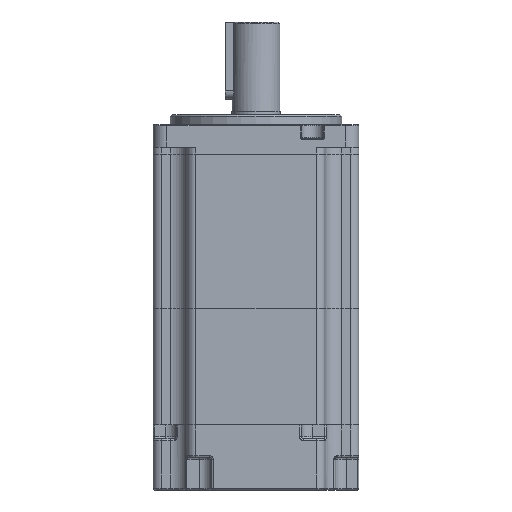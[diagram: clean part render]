
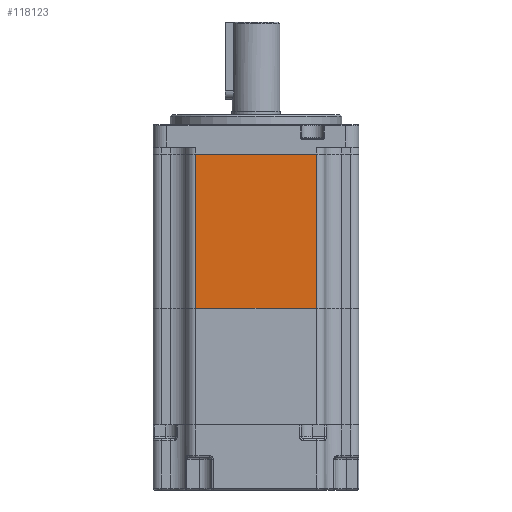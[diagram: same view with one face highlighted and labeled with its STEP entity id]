
A CAD part, front view. The second image highlights one B-rep face of the part: STEP entity #118123.
In plain terms, the highlighted planar face has unit normal (0, -1, 0).
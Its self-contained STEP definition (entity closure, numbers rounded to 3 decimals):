
#2219 = VERTEX_POINT ( 'NONE', #9013 ) ;
#3834 = LINE ( 'NONE', #116562, #117769 ) ;
#9013 = CARTESIAN_POINT ( 'NONE',  ( 17.55, -30., 45. ) ) ;
#9226 = CARTESIAN_POINT ( 'NONE',  ( 17.55, -30., 0. ) ) ;
#9628 = ORIENTED_EDGE ( 'NONE', *, *, #37212, .F. ) ;
#28409 = VECTOR ( 'NONE', #48271, 1000. ) ;
#28499 = EDGE_LOOP ( 'NONE', ( #112798, #72405, #9628, #118435 ) ) ;
#31718 = LINE ( 'NONE', #91940, #74095 ) ;
#37212 = EDGE_CURVE ( 'NONE', #107902, #2219, #46362, .T. ) ;
#39237 = CARTESIAN_POINT ( 'NONE',  ( -17.55, -30., 45. ) ) ;
#40941 = DIRECTION ( 'NONE',  ( 0., 0., 1. ) ) ;
#46362 = LINE ( 'NONE', #89186, #28409 ) ;
#48271 = DIRECTION ( 'NONE',  ( 1., 0., 0. ) ) ;
#49659 = CARTESIAN_POINT ( 'NONE',  ( 17.55, -30., 45. ) ) ;
#50546 = VERTEX_POINT ( 'NONE', #75837 ) ;
#62771 = VECTOR ( 'NONE', #86228, 1000. ) ;
#72405 = ORIENTED_EDGE ( 'NONE', *, *, #72932, .F. ) ;
#72932 = EDGE_CURVE ( 'NONE', #2219, #75026, #3834, .T. ) ;
#74095 = VECTOR ( 'NONE', #123743, 1000. ) ;
#75026 = VERTEX_POINT ( 'NONE', #9226 ) ;
#75291 = DIRECTION ( 'NONE',  ( 0., 0., -1. ) ) ;
#75837 = CARTESIAN_POINT ( 'NONE',  ( -17.55, -30., 0. ) ) ;
#76978 = AXIS2_PLACEMENT_3D ( 'NONE', #49659, #123238, #40941 ) ;
#86228 = DIRECTION ( 'NONE',  ( 0., 0., -1. ) ) ;
#87687 = EDGE_CURVE ( 'NONE', #50546, #75026, #31718, .T. ) ;
#89186 = CARTESIAN_POINT ( 'NONE',  ( 17.55, -30., 45. ) ) ;
#90850 = FACE_OUTER_BOUND ( 'NONE', #28499, .T. ) ;
#91940 = CARTESIAN_POINT ( 'NONE',  ( 17.55, -30., 0. ) ) ;
#99850 = CARTESIAN_POINT ( 'NONE',  ( -17.55, -30., 45. ) ) ;
#100169 = LINE ( 'NONE', #99850, #62771 ) ;
#105003 = EDGE_CURVE ( 'NONE', #107902, #50546, #100169, .T. ) ;
#107902 = VERTEX_POINT ( 'NONE', #39237 ) ;
#112798 = ORIENTED_EDGE ( 'NONE', *, *, #87687, .T. ) ;
#116562 = CARTESIAN_POINT ( 'NONE',  ( 17.55, -30., 45. ) ) ;
#117769 = VECTOR ( 'NONE', #75291, 1000. ) ;
#118123 = ADVANCED_FACE ( 'NONE', ( #90850 ), #134150, .F. ) ;
#118435 = ORIENTED_EDGE ( 'NONE', *, *, #105003, .T. ) ;
#123238 = DIRECTION ( 'NONE',  ( 0., 1., 0. ) ) ;
#123743 = DIRECTION ( 'NONE',  ( 1., 0., 0. ) ) ;
#134150 = PLANE ( 'NONE',  #76978 ) ;
